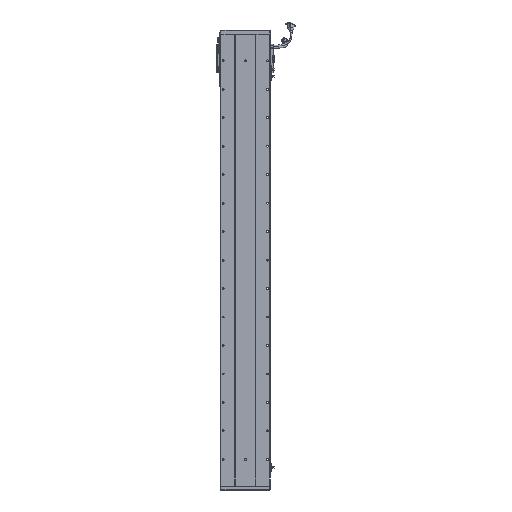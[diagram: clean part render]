
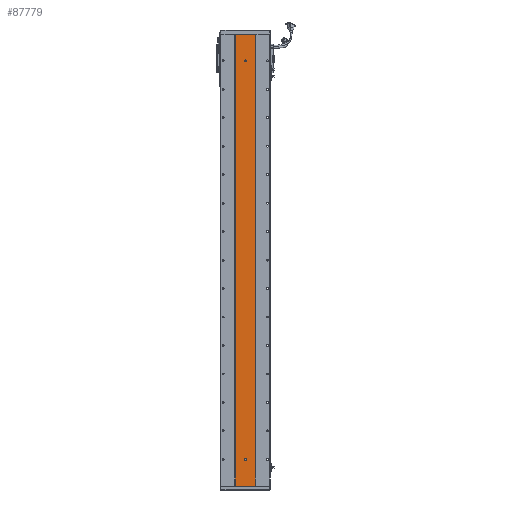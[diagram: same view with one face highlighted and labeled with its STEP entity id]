
A CAD part, front view. The second image highlights one B-rep face of the part: STEP entity #87779.
In plain terms, the highlighted planar face has unit normal (0, -1, 0).
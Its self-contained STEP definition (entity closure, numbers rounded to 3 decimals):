
#2301 = EDGE_CURVE ( 'NONE', #33991, #74226, #3123, .T. ) ;
#2358 = EDGE_LOOP ( 'NONE', ( #5919, #12948, #38032, #60274, #9558 ) ) ;
#2904 = CARTESIAN_POINT ( 'NONE',  ( 3280.529, 1415.701, 1493.5 ) ) ;
#3123 = LINE ( 'NONE', #98007, #36364 ) ;
#4121 = AXIS2_PLACEMENT_3D ( 'NONE', #48376, #33676, #79003 ) ;
#5377 = CIRCLE ( 'NONE', #81260, 3. ) ;
#5919 = ORIENTED_EDGE ( 'NONE', *, *, #57347, .F. ) ;
#6129 = FACE_BOUND ( 'NONE', #2358, .T. ) ;
#7327 = DIRECTION ( 'NONE',  ( 0., 0., -1. ) ) ;
#7656 = CARTESIAN_POINT ( 'NONE',  ( 3280.529, 1415.701, 95. ) ) ;
#9558 = ORIENTED_EDGE ( 'NONE', *, *, #47821, .F. ) ;
#12357 = LINE ( 'NONE', #54343, #25377 ) ;
#12948 = ORIENTED_EDGE ( 'NONE', *, *, #66714, .F. ) ;
#13820 = AXIS2_PLACEMENT_3D ( 'NONE', #7656, #46164, #7327 ) ;
#17575 = CARTESIAN_POINT ( 'NONE',  ( 3280.529, 1415.701, 1496.5 ) ) ;
#17888 = CARTESIAN_POINT ( 'NONE',  ( 3283.529, 1415.701, 92. ) ) ;
#18740 = CIRCLE ( 'NONE', #4121, 3. ) ;
#19599 = CARTESIAN_POINT ( 'NONE',  ( 3283.529, 1415.701, 95. ) ) ;
#20277 = CARTESIAN_POINT ( 'NONE',  ( 3244.748, 1415.701, 0. ) ) ;
#20385 = LINE ( 'NONE', #19599, #83526 ) ;
#21740 = DIRECTION ( 'NONE',  ( 0., -1., 0. ) ) ;
#22280 = EDGE_LOOP ( 'NONE', ( #85678, #97381, #52007, #28117 ) ) ;
#25377 = VECTOR ( 'NONE', #84666, 1000. ) ;
#28117 = ORIENTED_EDGE ( 'NONE', *, *, #67554, .T. ) ;
#32677 = CARTESIAN_POINT ( 'NONE',  ( 3316.311, 1415.701, 1587. ) ) ;
#33676 = DIRECTION ( 'NONE',  ( 0., -1., 0. ) ) ;
#33991 = VERTEX_POINT ( 'NONE', #46805 ) ;
#34026 = EDGE_CURVE ( 'NONE', #53707, #59535, #5377, .T. ) ;
#34053 = CARTESIAN_POINT ( 'NONE',  ( 3244.748, 1415.701, 0. ) ) ;
#34333 = LINE ( 'NONE', #50762, #90363 ) ;
#34642 = EDGE_CURVE ( 'NONE', #74226, #80647, #12357, .T. ) ;
#35576 = EDGE_CURVE ( 'NONE', #44294, #40018, #52588, .T. ) ;
#36364 = VECTOR ( 'NONE', #67693, 1000. ) ;
#38032 = ORIENTED_EDGE ( 'NONE', *, *, #35576, .F. ) ;
#39398 = FACE_BOUND ( 'NONE', #76905, .T. ) ;
#40018 = VERTEX_POINT ( 'NONE', #71302 ) ;
#40492 = DIRECTION ( 'NONE',  ( 0., -1., 0. ) ) ;
#41780 = DIRECTION ( 'NONE',  ( 1., 0., 0. ) ) ;
#42093 = CARTESIAN_POINT ( 'NONE',  ( 3277.529, 1415.701, 92. ) ) ;
#42307 = VECTOR ( 'NONE', #41780, 1000. ) ;
#43813 = CARTESIAN_POINT ( 'NONE',  ( 3244.748, 1415.701, 1587. ) ) ;
#44294 = VERTEX_POINT ( 'NONE', #60335 ) ;
#44679 = DIRECTION ( 'NONE',  ( 0., 0., -1. ) ) ;
#45722 = VERTEX_POINT ( 'NONE', #20277 ) ;
#46164 = DIRECTION ( 'NONE',  ( 0., -1., 0. ) ) ;
#46805 = CARTESIAN_POINT ( 'NONE',  ( 3244.748, 1415.701, 1587. ) ) ;
#47821 = EDGE_CURVE ( 'NONE', #50296, #86311, #77259, .T. ) ;
#48376 = CARTESIAN_POINT ( 'NONE',  ( 3280.529, 1415.701, 92. ) ) ;
#50296 = VERTEX_POINT ( 'NONE', #74117 ) ;
#50744 = EDGE_CURVE ( 'NONE', #45722, #80647, #54126, .T. ) ;
#50762 = CARTESIAN_POINT ( 'NONE',  ( 3277.529, 1415.701, 95. ) ) ;
#52007 = ORIENTED_EDGE ( 'NONE', *, *, #2301, .F. ) ;
#52588 = CIRCLE ( 'NONE', #13820, 3. ) ;
#53707 = VERTEX_POINT ( 'NONE', #96015 ) ;
#54126 = LINE ( 'NONE', #34053, #42307 ) ;
#54343 = CARTESIAN_POINT ( 'NONE',  ( 3316.311, 1415.701, 1587. ) ) ;
#55628 = DIRECTION ( 'NONE',  ( 0., 0., -1. ) ) ;
#56126 = DIRECTION ( 'NONE',  ( 0., -1., 0. ) ) ;
#56844 = DIRECTION ( 'NONE',  ( 0., 0., 1. ) ) ;
#57347 = EDGE_CURVE ( 'NONE', #62154, #50296, #18740, .T. ) ;
#59535 = VERTEX_POINT ( 'NONE', #17575 ) ;
#60274 = ORIENTED_EDGE ( 'NONE', *, *, #87639, .F. ) ;
#60335 = CARTESIAN_POINT ( 'NONE',  ( 3283.529, 1415.701, 95. ) ) ;
#60446 = CIRCLE ( 'NONE', #97802, 3. ) ;
#61309 = CARTESIAN_POINT ( 'NONE',  ( 3280.529, 1415.701, 1493.5 ) ) ;
#62080 = AXIS2_PLACEMENT_3D ( 'NONE', #64769, #56126, #72728 ) ;
#62154 = VERTEX_POINT ( 'NONE', #42093 ) ;
#64769 = CARTESIAN_POINT ( 'NONE',  ( 3280.529, 1415.701, 92. ) ) ;
#66714 = EDGE_CURVE ( 'NONE', #40018, #62154, #34333, .T. ) ;
#67327 = EDGE_CURVE ( 'NONE', #59535, #53707, #60446, .T. ) ;
#67489 = CARTESIAN_POINT ( 'NONE',  ( 3316.311, 1415.701, 0. ) ) ;
#67554 = EDGE_CURVE ( 'NONE', #33991, #45722, #94962, .T. ) ;
#67693 = DIRECTION ( 'NONE',  ( 1., 0., 0. ) ) ;
#69073 = DIRECTION ( 'NONE',  ( 0., 0., -1. ) ) ;
#71302 = CARTESIAN_POINT ( 'NONE',  ( 3277.529, 1415.701, 95. ) ) ;
#71769 = ORIENTED_EDGE ( 'NONE', *, *, #34026, .F. ) ;
#72728 = DIRECTION ( 'NONE',  ( 0., 0., -1. ) ) ;
#73780 = DIRECTION ( 'NONE',  ( 0., 1., 0. ) ) ;
#73941 = FACE_OUTER_BOUND ( 'NONE', #22280, .T. ) ;
#74117 = CARTESIAN_POINT ( 'NONE',  ( 3280.529, 1415.701, 89. ) ) ;
#74226 = VERTEX_POINT ( 'NONE', #32677 ) ;
#74434 = PLANE ( 'NONE',  #78277 ) ;
#74684 = VECTOR ( 'NONE', #55628, 1000. ) ;
#76905 = EDGE_LOOP ( 'NONE', ( #71769, #97170 ) ) ;
#77259 = CIRCLE ( 'NONE', #62080, 3. ) ;
#78277 = AXIS2_PLACEMENT_3D ( 'NONE', #43813, #73780, #81774 ) ;
#79003 = DIRECTION ( 'NONE',  ( 0., 0., -1. ) ) ;
#80647 = VERTEX_POINT ( 'NONE', #67489 ) ;
#81260 = AXIS2_PLACEMENT_3D ( 'NONE', #2904, #40492, #85438 ) ;
#81774 = DIRECTION ( 'NONE',  ( 0., 0., 1. ) ) ;
#83526 = VECTOR ( 'NONE', #56844, 1000. ) ;
#84666 = DIRECTION ( 'NONE',  ( 0., 0., -1. ) ) ;
#85438 = DIRECTION ( 'NONE',  ( 0., 0., -1. ) ) ;
#85678 = ORIENTED_EDGE ( 'NONE', *, *, #50744, .T. ) ;
#86259 = CARTESIAN_POINT ( 'NONE',  ( 3244.748, 1415.701, 1587. ) ) ;
#86311 = VERTEX_POINT ( 'NONE', #17888 ) ;
#87639 = EDGE_CURVE ( 'NONE', #86311, #44294, #20385, .T. ) ;
#87779 = ADVANCED_FACE ( 'NONE', ( #6129, #39398, #73941 ), #74434, .F. ) ;
#90363 = VECTOR ( 'NONE', #69073, 1000. ) ;
#94962 = LINE ( 'NONE', #86259, #74684 ) ;
#96015 = CARTESIAN_POINT ( 'NONE',  ( 3280.529, 1415.701, 1490.5 ) ) ;
#97170 = ORIENTED_EDGE ( 'NONE', *, *, #67327, .F. ) ;
#97381 = ORIENTED_EDGE ( 'NONE', *, *, #34642, .F. ) ;
#97802 = AXIS2_PLACEMENT_3D ( 'NONE', #61309, #21740, #44679 ) ;
#98007 = CARTESIAN_POINT ( 'NONE',  ( 3244.748, 1415.701, 1587. ) ) ;
